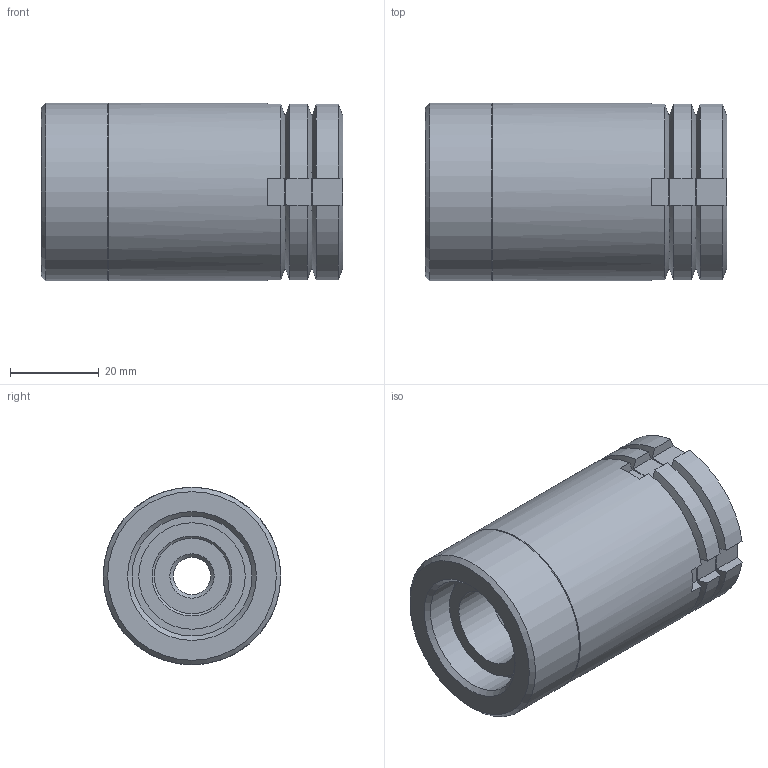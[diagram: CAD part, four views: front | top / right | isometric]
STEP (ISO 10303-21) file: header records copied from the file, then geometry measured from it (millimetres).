
FILE_DESCRIPTION( ( 'STEP AP203' ), '1' );
FILE_NAME( 'C:/Temp/Ganter_Step_05_03_2020/data/3_2/gn360/gn360_ni/Stainless Steel-Levelling set GN 360-40-M10-86-B-NI (0-0).stp', '2020-03-13T05:42:08', ( 'License CC BY-ND 4.0' ), ( 'CADENAS' ), ' ', 'PARTsolutions', ' ' );
FILE_SCHEMA( ( 'CONFIG_CONTROL_DESIGN' ) );
Length unit declared in the file: millimetre
Products named in the file (5): Stainless Steel-Levelling set GN 360-40-M10-86-B-NI (0-0); _Stainless Steel-Levelling set GN 360-40-M10-86-B-NI (0-0)-1; _Stainless Steel-Levelling set GN 360-40-M10-86-B-NI (0-0)-2; _Edelstahl-Ausgleich-Stellfuss GN 360-40-M10-86-B-NI (0-0)-4; _Stainless Steel-Levelling set GN 360-40-M10-86-B-NI (0-0)-3
Assembly tree (4 placements, depth 2):
  Stainless Steel-Levelling set GN 360-40-M10-86-B-NI (0-0)
    _Stainless Steel-Levelling set GN 360-40-M10-86-B-NI (0-0)-1
    _Stainless Steel-Levelling set GN 360-40-M10-86-B-NI (0-0)-2
    _Edelstahl-Ausgleich-Stellfuss GN 360-40-M10-86-B-NI (0-0)-4
    _Stainless Steel-Levelling set GN 360-40-M10-86-B-NI (0-0)-3
Bounding box: 68 x 40 x 40 mm (x, y, z)
Volume: 67864 mm3; surface area: 27890.5 mm2
Topology: 4 solids, 4 shells, 95 faces, 229 edges, 148 vertices
Faces by surface type: plane 54, cylinder 22, cone 16, sphere 2, torus 1
Full cylindrical faces by diameter (mm): 8.376 x1, 17 x1, 18 x1, 20 x1, 23.5 x1, 24 x1, 26 x1, 26.376 x2, 27 x1, 28 x1, 28.5 x1, 40 x2
Entity records: 2864 total; most frequent: CARTESIAN_POINT 708, DIRECTION 396, ORIENTED_EDGE 376, EDGE_CURVE 188, AXIS2_PLACEMENT_3D 168, EDGE_LOOP 142, VERTEX_POINT 140, FACE_OUTER_BOUND 112
